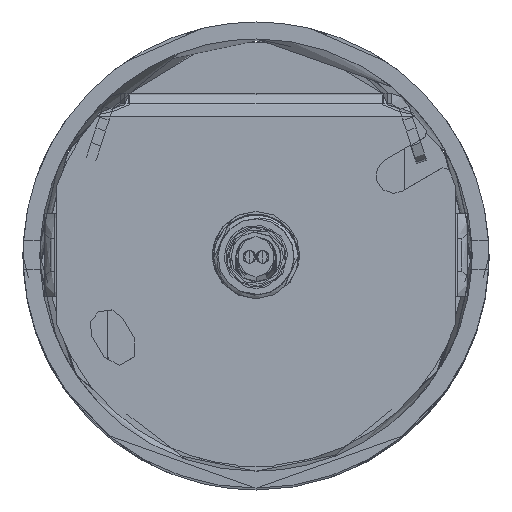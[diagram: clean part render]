
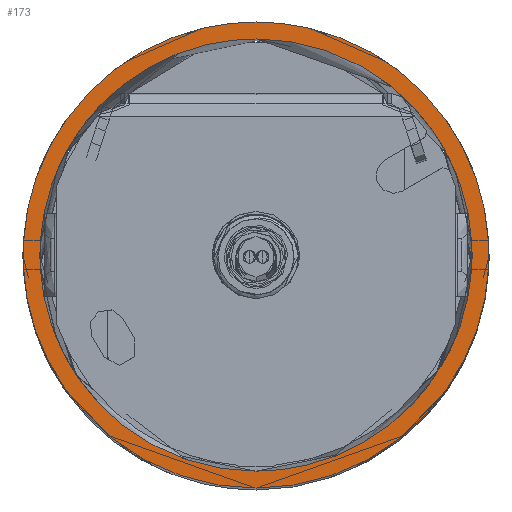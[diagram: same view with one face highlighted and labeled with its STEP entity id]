
A CAD part, top view. The second image highlights one B-rep face of the part: STEP entity #173.
In plain terms, the highlighted planar face has unit normal (0, 0, 1) as drawn and (0, 1, 0) by its records, which use the part's own axes.
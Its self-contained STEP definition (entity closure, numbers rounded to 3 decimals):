
#121=FACE_BOUND('',#1096,.T.);
#173=ADVANCED_FACE('',(#633,#121),#7027,.T.);
#633=FACE_OUTER_BOUND('',#1095,.T.);
#1095=EDGE_LOOP('',(#1619,#1620));
#1096=EDGE_LOOP('',(#1621,#1622));
#1619=ORIENTED_EDGE('',*,*,#3959,.T.);
#1620=ORIENTED_EDGE('',*,*,#3955,.F.);
#1621=ORIENTED_EDGE('',*,*,#3963,.T.);
#1622=ORIENTED_EDGE('',*,*,#3949,.T.);
#3949=EDGE_CURVE('',#6295,#6296,#5115,.T.);
#3955=EDGE_CURVE('',#6299,#6300,#5117,.T.);
#3959=EDGE_CURVE('',#6299,#6300,#5119,.T.);
#3963=EDGE_CURVE('',#6296,#6295,#5121,.T.);
#5115=(
BOUNDED_CURVE()
B_SPLINE_CURVE(2,(#8282,#8283,#8284,#8285,#8286),.UNSPECIFIED.,.F.,.F.)
B_SPLINE_CURVE_WITH_KNOTS((3,2,3),(-80.111,-40.055,
0.),.UNSPECIFIED.)
CURVE()
GEOMETRIC_REPRESENTATION_ITEM()
RATIONAL_B_SPLINE_CURVE((1.,0.707,1.,0.707,1.))
REPRESENTATION_ITEM('')
);
#5117=(
BOUNDED_CURVE()
B_SPLINE_CURVE(2,(#8350,#8351,#8352,#8353,#8354),.UNSPECIFIED.,.F.,.F.)
B_SPLINE_CURVE_WITH_KNOTS((3,2,3),(0.,43.197,86.394),
 .UNSPECIFIED.)
CURVE()
GEOMETRIC_REPRESENTATION_ITEM()
RATIONAL_B_SPLINE_CURVE((1.,0.707,1.,0.707,1.))
REPRESENTATION_ITEM('')
);
#5119=(
BOUNDED_CURVE()
B_SPLINE_CURVE(2,(#8364,#8365,#8366,#8367,#8368),.UNSPECIFIED.,.F.,.F.)
B_SPLINE_CURVE_WITH_KNOTS((3,2,3),(-86.394,-43.197,
0.),.UNSPECIFIED.)
CURVE()
GEOMETRIC_REPRESENTATION_ITEM()
RATIONAL_B_SPLINE_CURVE((1.,0.707,1.,0.707,1.))
REPRESENTATION_ITEM('')
);
#5121=(
BOUNDED_CURVE()
B_SPLINE_CURVE(2,(#8428,#8429,#8430,#8431,#8432),.UNSPECIFIED.,.F.,.F.)
B_SPLINE_CURVE_WITH_KNOTS((3,2,3),(-80.111,-40.055,
0.),.UNSPECIFIED.)
CURVE()
GEOMETRIC_REPRESENTATION_ITEM()
RATIONAL_B_SPLINE_CURVE((1.,0.707,1.,0.707,1.))
REPRESENTATION_ITEM('')
);
#6295=VERTEX_POINT('',#8212);
#6296=VERTEX_POINT('',#8213);
#6299=VERTEX_POINT('',#8216);
#6300=VERTEX_POINT('',#8217);
#7027=PLANE('',#7690);
#7690=AXIS2_PLACEMENT_3D('',#8130,#7861,$);
#7861=DIRECTION('',(0.,1.,0.));
#8130=CARTESIAN_POINT('',(-33.,65.,-33.));
#8212=CARTESIAN_POINT('',(0.,65.,25.5));
#8213=CARTESIAN_POINT('',(0.,65.,-25.5));
#8216=CARTESIAN_POINT('',(0.,65.,-27.5));
#8217=CARTESIAN_POINT('',(0.,65.,27.5));
#8282=CARTESIAN_POINT('',(0.,65.,25.5));
#8283=CARTESIAN_POINT('',(-25.5,65.,25.5));
#8284=CARTESIAN_POINT('',(-25.5,65.,0.));
#8285=CARTESIAN_POINT('',(-25.5,65.,-25.5));
#8286=CARTESIAN_POINT('',(0.,65.,-25.5));
#8350=CARTESIAN_POINT('',(0.,65.,-27.5));
#8351=CARTESIAN_POINT('',(27.5,65.,-27.5));
#8352=CARTESIAN_POINT('',(27.5,65.,0.));
#8353=CARTESIAN_POINT('',(27.5,65.,27.5));
#8354=CARTESIAN_POINT('',(0.,65.,27.5));
#8364=CARTESIAN_POINT('',(0.,65.,-27.5));
#8365=CARTESIAN_POINT('',(-27.5,65.,-27.5));
#8366=CARTESIAN_POINT('',(-27.5,65.,0.));
#8367=CARTESIAN_POINT('',(-27.5,65.,27.5));
#8368=CARTESIAN_POINT('',(0.,65.,27.5));
#8428=CARTESIAN_POINT('',(0.,65.,-25.5));
#8429=CARTESIAN_POINT('',(25.5,65.,-25.5));
#8430=CARTESIAN_POINT('',(25.5,65.,0.));
#8431=CARTESIAN_POINT('',(25.5,65.,25.5));
#8432=CARTESIAN_POINT('',(0.,65.,25.5));
